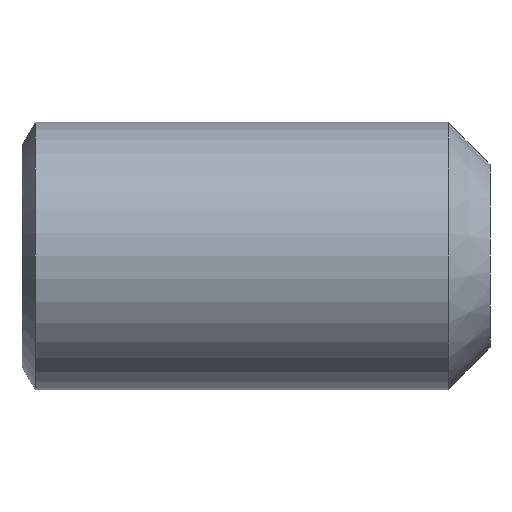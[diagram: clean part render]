
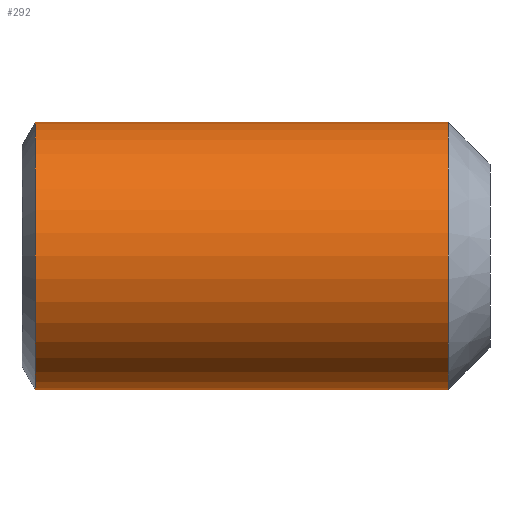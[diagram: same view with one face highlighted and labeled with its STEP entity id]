
A CAD part, front view. The second image highlights one B-rep face of the part: STEP entity #292.
In plain terms, the highlighted cylindrical face has radius 4 mm (diameter 8 mm), a full revolution.
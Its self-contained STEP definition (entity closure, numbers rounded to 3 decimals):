
#22 = ORIENTED_EDGE ( 'NONE', *, *, #185, .T. ) ;
#23 = DIRECTION ( 'NONE',  ( 0., 0., 1. ) ) ;
#28 = CYLINDRICAL_SURFACE ( 'NONE', #92, 4. ) ;
#33 = VERTEX_POINT ( 'NONE', #189 ) ;
#38 = AXIS2_PLACEMENT_3D ( 'NONE', #128, #253, #23 ) ;
#56 = CARTESIAN_POINT ( 'NONE',  ( -12.7, 0., 0. ) ) ;
#57 = DIRECTION ( 'NONE',  ( 0., 0., 1. ) ) ;
#63 = CARTESIAN_POINT ( 'NONE',  ( 12.75, 0., 4. ) ) ;
#70 = EDGE_LOOP ( 'NONE', ( #22 ) ) ;
#79 = FACE_OUTER_BOUND ( 'NONE', #288, .T. ) ;
#83 = DIRECTION ( 'NONE',  ( 0., 0., 1. ) ) ;
#92 = AXIS2_PLACEMENT_3D ( 'NONE', #56, #231, #57 ) ;
#128 = CARTESIAN_POINT ( 'NONE',  ( 0.399, 0., 0. ) ) ;
#140 = EDGE_CURVE ( 'NONE', #33, #33, #220, .T. ) ;
#185 = EDGE_CURVE ( 'NONE', #212, #212, #238, .T. ) ;
#189 = CARTESIAN_POINT ( 'NONE',  ( 0.399, 0., 4. ) ) ;
#210 = CARTESIAN_POINT ( 'NONE',  ( 12.75, 0., 0. ) ) ;
#212 = VERTEX_POINT ( 'NONE', #63 ) ;
#220 = CIRCLE ( 'NONE', #38, 4. ) ;
#231 = DIRECTION ( 'NONE',  ( -1., 0., 0. ) ) ;
#238 = CIRCLE ( 'NONE', #283, 4. ) ;
#253 = DIRECTION ( 'NONE',  ( -1., 0., 0. ) ) ;
#254 = FACE_OUTER_BOUND ( 'NONE', #70, .T. ) ;
#263 = DIRECTION ( 'NONE',  ( -1., 0., 0. ) ) ;
#283 = AXIS2_PLACEMENT_3D ( 'NONE', #210, #263, #83 ) ;
#288 = EDGE_LOOP ( 'NONE', ( #303 ) ) ;
#292 = ADVANCED_FACE ( 'NONE', ( #254, #79 ), #28, .T. ) ;
#303 = ORIENTED_EDGE ( 'NONE', *, *, #140, .F. ) ;
